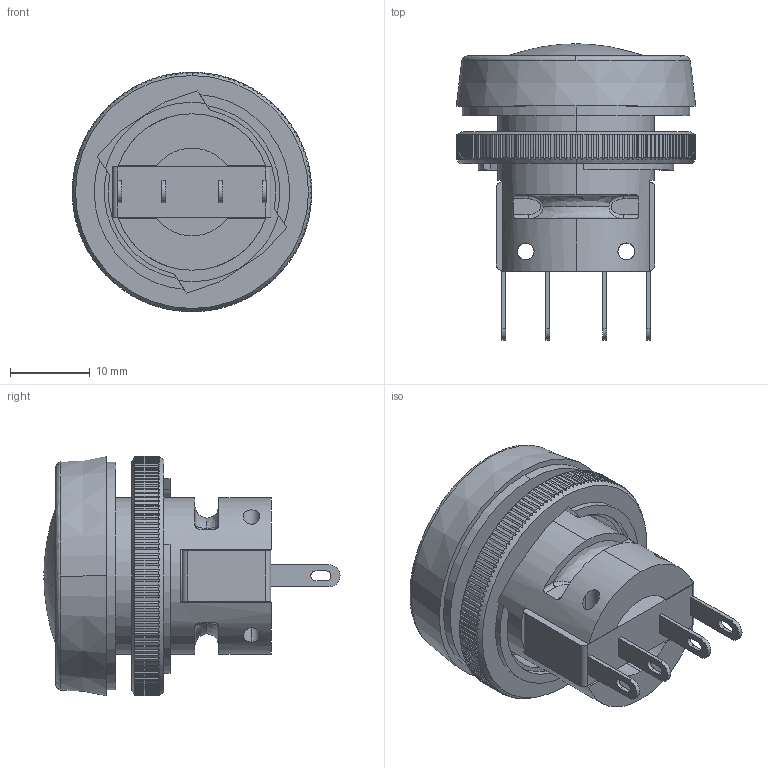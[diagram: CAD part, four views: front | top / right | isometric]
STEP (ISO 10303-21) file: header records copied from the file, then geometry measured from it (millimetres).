
FILE_DESCRIPTION (( 'STEP AP214' ), '1' );
FILE_NAME ('76-911X-439088.STEP', '2016-01-20T14:45:55', ( 'Admin' ), ( 'Microsoft' ), 'SwSTEP 2.0', 'SolidWorks 2015', '' );
FILE_SCHEMA (( 'AUTOMOTIVE_DESIGN' ));
Length unit declared in the file: millimetre
Products named in the file (5): Part_1; 76-911X-439088; 76-911X-439088-1
Assembly tree (2 placements, depth 2):
  Part_1
  76-911X-439088
    Part_1
    76-911X-439088-1
  76-911X-439088-1
Bounding box: 30 x 37.1 x 30 mm (x, y, z)
Volume: 11517.6 mm3; surface area: 6483.1 mm2
Topology: 2 solids, 2 shells, 503 faces, 1464 edges, 970 vertices
Faces by surface type: cylinder 408, plane 73, bspline 14, cone 6, torus 2
Entity records: 21442 total; most frequent: CARTESIAN_POINT 7891, ORIENTED_EDGE 2924, DIRECTION 2395, EDGE_CURVE 1462, VERTEX_POINT 970, AXIS2_PLACEMENT_3D 909, LINE 577, VECTOR 577
